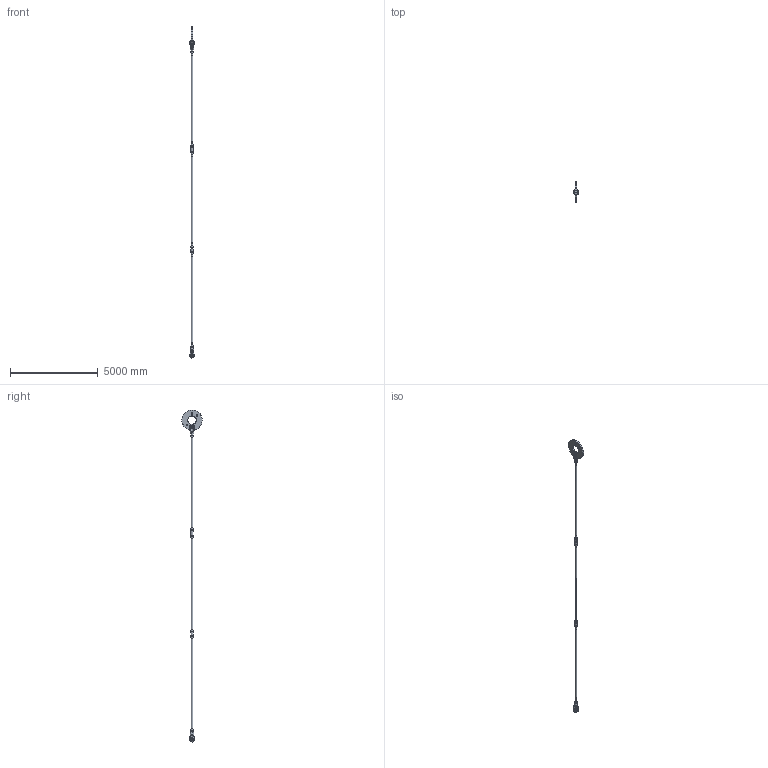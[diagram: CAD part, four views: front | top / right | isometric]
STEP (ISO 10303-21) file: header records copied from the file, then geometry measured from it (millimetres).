
FILE_DESCRIPTION(/* description */ (''),/* implementation_level */ '2;1');
FILE_NAME(/* name */ 'C:\Vault-WS\Anker\Werksnorm\Hochbau\ASDO-System\ASDO-S\System Komplett\Step\M 095.stp',/* time_stamp */ '2014-01-30T09:28:08+01:00',/* author */ ('ritgen'),/* organization */ (''),/* preprocessor_version */ 'ST-DEVELOPER v15.2',/* originating_system */ 'Autodesk Inventor 2014',/* authorisation */ '');
FILE_SCHEMA (('AUTOMOTIVE_DESIGN { 1 0 10303 214 3 1 1 }'));
Length unit declared in the file: millimetre
Products named in the file (11): ASDO-005771; ASDO-014276; ASDO-014327; DIN 7991 - M16x35 - 8.8; ASDO-013945; ASDO-001712; ASDO-001358; ASDO-001464; ASDO-006466; ASDO-014052; ASDO-006465
Bounding box: 238 x 1158.9 x 18914.34 mm (x, y, z)
Volume: 229121126.1 mm3; surface area: 10085850.6 mm2
Topology: 24 solids, 24 shells, 501 faces, 1066 edges, 646 vertices
Faces by surface type: plane 164, bspline 144, cylinder 89, cone 58, torus 46
Full cylindrical faces by diameter (mm): 9 x18, 13.835 x4, 16 x4, 18 x4, 30 x4, 88.505 x11, 95 x5, 97 x14, 99 x1, 99.5 x6, 134 x6, 139 x4, 152.4 x2, 475 x1, 1160 x1
Entity records: 13929 total; most frequent: CARTESIAN_POINT 9637, ORIENTED_EDGE 768, DIRECTION 766, EDGE_CURVE 384, AXIS2_PLACEMENT_3D 353, EDGE_LOOP 328, VERTEX_POINT 270, ADVANCED_FACE 218
